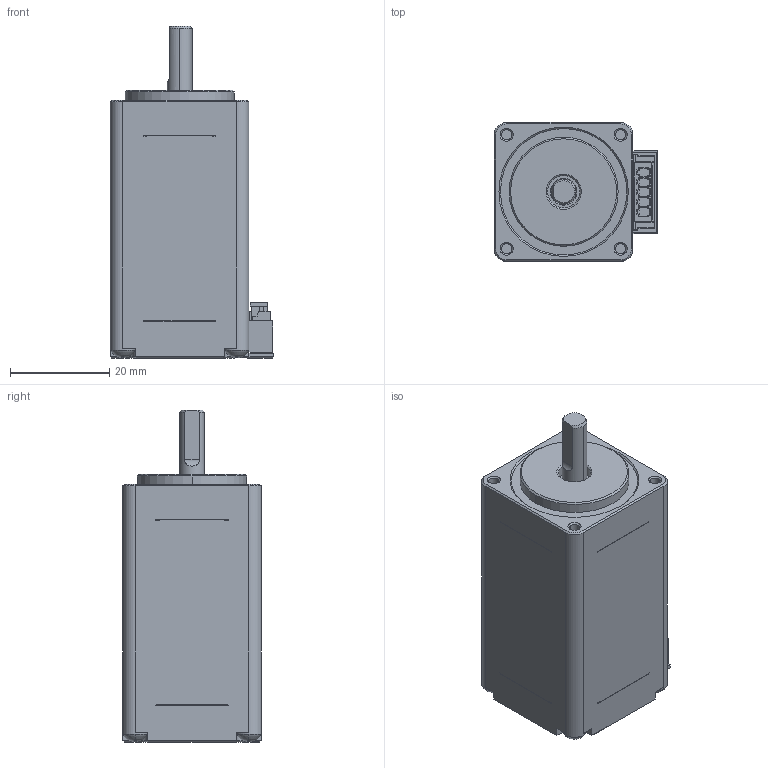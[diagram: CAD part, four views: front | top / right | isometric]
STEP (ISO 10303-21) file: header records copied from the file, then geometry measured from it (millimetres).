
FILE_DESCRIPTION((''),'2;1');
FILE_NAME('3_1_01_028_1031_SW0001','2025-10-15T16:10:43',('xujiajun'),(''),'CREO PARAMETRIC BY PTC INC, 2017110','CREO PARAMETRIC BY PTC INC, 2017110','');
FILE_SCHEMA(('CONFIG_CONTROL_DESIGN'));
Length unit declared in the file: millimetre
Products named in the file (1): 3_1_01_028_1031_SW0001
Bounding box: 33 x 28 x 67 mm (x, y, z)
Volume: 16335.7 mm3; surface area: 21315.8 mm2
Topology: 3 solids, 3 shells, 1461 faces, 4070 edges, 2628 vertices
Faces by surface type: plane 1190, cylinder 174, cone 59, torus 26, sphere 8, bspline 4
Entity records: 47356 total; most frequent: CARTESIAN_POINT 9391, ORIENTED_EDGE 8140, DIRECTION 7513, EDGE_CURVE 4070, VECTOR 3391, LINE 3391, VERTEX_POINT 2628, AXIS2_PLACEMENT_3D 2061
